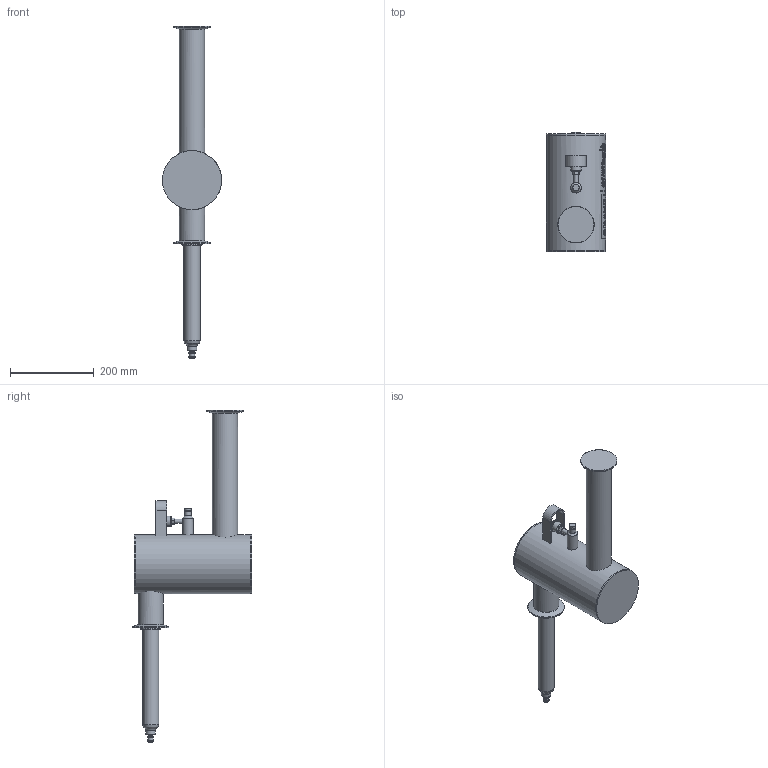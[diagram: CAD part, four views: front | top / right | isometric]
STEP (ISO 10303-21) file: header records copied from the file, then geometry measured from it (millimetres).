
FILE_DESCRIPTION (( 'STEP AP203' ), '1' );
FILE_NAME ('CA00020-TF.step', '2025-12-17T20:00:55', ( '' ), ( '' ), 'SwSTEP 2.0', 'SolidWorks 2023', '' );
FILE_SCHEMA (( 'CONFIG_CONTROL_DESIGN' ));
Length unit declared in the file: inch
Products named in the file (1): CA00020-TF
Bounding box: 141.3 x 284.95 x 793.11 mm (x, y, z)
Volume: 5864046.3 mm3; surface area: 298870.4 mm2
Topology: 1 solids, 1 shells, 672 faces, 1684 edges, 1116 vertices
Faces by surface type: plane 415, cylinder 177, bspline 53, torus 19, cone 8
Full cylindrical faces by diameter (mm): 1.494 x1, 1.636 x1, 1.778 x1, 1.935 x4, 2.039 x1, 2.302 x1, 2.967 x1, 3.071 x1, 3.409 x1, 3.632 x1, 3.807 x1, 4.009 x1, 4.573 x1, 6.177 x1, 7.63 x1, 7.722 x1, 9.232 x1, 10.16 x1, 10.236 x2, 10.287 x1, 10.749 x1, 12.7 x1, 15.748 x2, 23.012 x1, 24.638 x1, 25.4 x1, 26.873 x1, 30.988 x1, 38.227 x1, 48.59 x1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
Entity records: 28007 total; most frequent: CARTESIAN_POINT 13470, ORIENTED_EDGE 3180, DIRECTION 2536, EDGE_CURVE 1590, VERTEX_POINT 1100, AXIS2_PLACEMENT_3D 862, EDGE_LOOP 854, VECTOR 812
